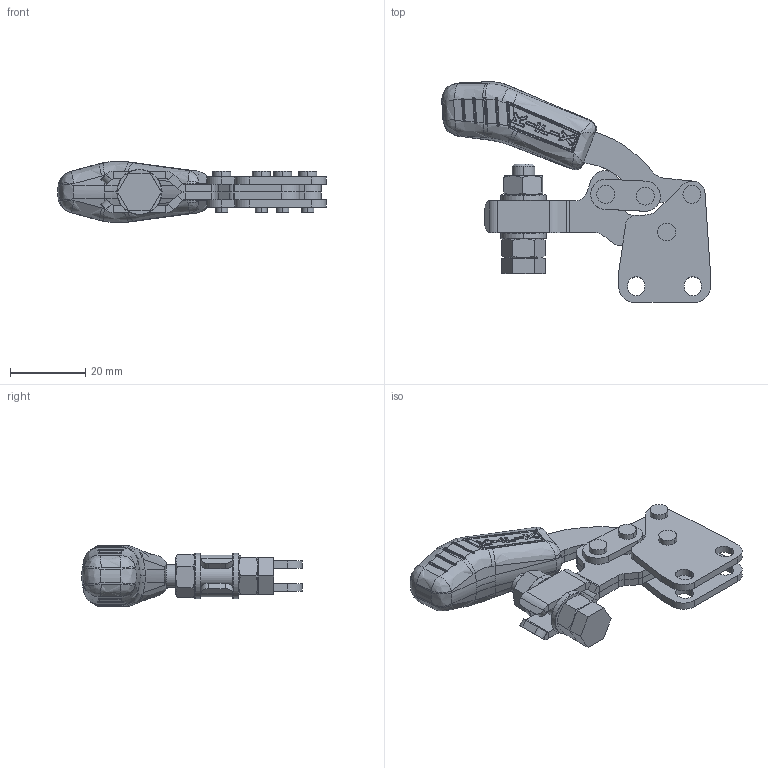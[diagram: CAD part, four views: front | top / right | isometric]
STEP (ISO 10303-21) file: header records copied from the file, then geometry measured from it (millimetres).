
FILE_DESCRIPTION (( 'STEP AP203' ), '1' );
FILE_NAME ('KF-102 R.STEP', '2014-08-15T18:38:39', ( 'Ricardo' ), ( '' ), 'SwSTEP 2.0', 'SolidWorks 2013', '' );
FILE_SCHEMA (( 'CONFIG_CONTROL_DESIGN' ));
Length unit declared in the file: millimetre
Products named in the file (12): 01.10221_Esquerda; 07.60004; 08.10026; KF-102 R; 06.50022; 12.50006; 11.50001; 02.11030; 03.13014_Direita; 03.13014_Esquerda; 01.10221_Direita; 17.50001
Assembly tree (18 placements, depth 2):
  KF-102 R
    02.11030  x2
    03.13014_Direita
    03.13014_Esquerda
    01.10221_Direita
    01.10221_Esquerda
    08.10026  x2
    06.50022  x4
    12.50006
    11.50001  x2
    17.50001  x2
    07.60004
Bounding box: 71.27 x 58.52 x 16.29 mm (x, y, z)
Volume: 14837.3 mm3; surface area: 14589.8 mm2
Topology: 18 solids, 18 shells, 1031 faces, 2566 edges, 1564 vertices
Faces by surface type: cylinder 362, plane 300, bspline 260, cone 54, sphere 52, torus 3
Entity records: 33562 total; most frequent: CARTESIAN_POINT 12397, ORIENTED_EDGE 4628, DIRECTION 3507, EDGE_CURVE 2314, VERTEX_POINT 1412, AXIS2_PLACEMENT_3D 1353, EDGE_LOOP 976, FACE_OUTER_BOUND 934
